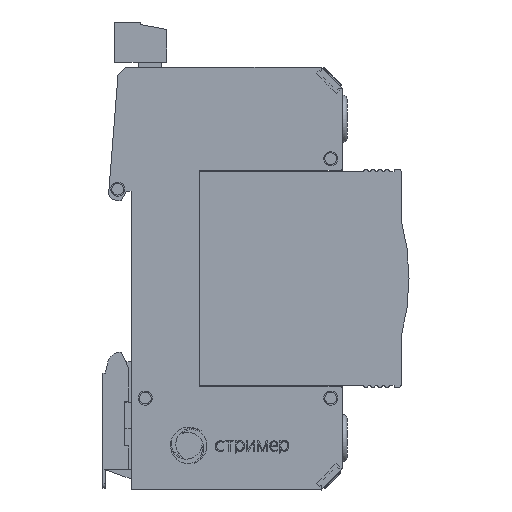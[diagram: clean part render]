
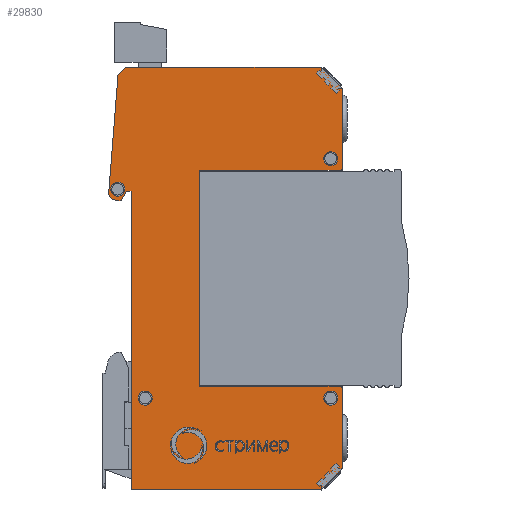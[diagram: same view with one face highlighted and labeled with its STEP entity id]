
A CAD part, front view. The second image highlights one B-rep face of the part: STEP entity #29830.
In plain terms, the highlighted planar face has unit normal (0, -1, 0).
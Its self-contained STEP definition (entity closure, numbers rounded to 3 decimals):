
#27758=CARTESIAN_POINT('',(30.,-9.,-23.));
#27759=VERTEX_POINT('',#27758);
#27797=CARTESIAN_POINT('',(0.,-9.,-23.));
#27798=VERTEX_POINT('',#27797);
#27805=CARTESIAN_POINT('',(30.,-9.,-23.));
#27806=DIRECTION('',(-1.,0.,0.));
#27807=VECTOR('',#27806,30.);
#27808=LINE('',#27805,#27807);
#27809=EDGE_CURVE('',#27759,#27798,#27808,.T.);
#27853=CARTESIAN_POINT('',(30.,-9.,23.));
#27854=VERTEX_POINT('',#27853);
#27861=CARTESIAN_POINT('',(0.,-9.,23.));
#27862=VERTEX_POINT('',#27861);
#27863=CARTESIAN_POINT('',(0.,-9.,23.));
#27864=DIRECTION('',(1.,0.,0.));
#27865=VECTOR('',#27864,30.);
#27866=LINE('',#27863,#27865);
#27867=EDGE_CURVE('',#27862,#27854,#27866,.T.);
#27992=CARTESIAN_POINT('',(-14.5,-9.,-45.));
#27993=VERTEX_POINT('',#27992);
#27994=CARTESIAN_POINT('',(26.,-9.,-45.));
#27995=VERTEX_POINT('',#27994);
#27996=CARTESIAN_POINT('',(-14.5,-9.,-45.));
#27997=DIRECTION('',(1.,0.,-0.));
#27998=VECTOR('',#27997,40.5);
#27999=LINE('',#27996,#27998);
#28000=EDGE_CURVE('',#27993,#27995,#27999,.T.);
#28662=CARTESIAN_POINT('',(-14.5,-9.,18.5));
#28663=VERTEX_POINT('',#28662);
#28664=CARTESIAN_POINT('',(-14.5,-9.,18.5));
#28665=DIRECTION('',(0.,0.,-1.));
#28666=VECTOR('',#28665,63.5);
#28667=LINE('',#28664,#28666);
#28668=EDGE_CURVE('',#28663,#27993,#28667,.T.);
#28863=CARTESIAN_POINT('',(-15.5,-9.,45.));
#28864=VERTEX_POINT('',#28863);
#28865=CARTESIAN_POINT('',(-17.29,-9.,43.498));
#28866=VERTEX_POINT('',#28865);
#28867=CARTESIAN_POINT('',(-15.5,-9.,45.));
#28868=DIRECTION('',(-0.766,0.,-0.643));
#28869=VECTOR('',#28868,2.337);
#28870=LINE('',#28867,#28869);
#28871=EDGE_CURVE('',#28864,#28866,#28870,.T.);
#28903=CARTESIAN_POINT('',(-19.273,-9.,18.306));
#28904=VERTEX_POINT('',#28903);
#28905=CARTESIAN_POINT('',(-17.29,-9.,43.498));
#28906=DIRECTION('',(-0.078,0.,-0.997));
#28907=VECTOR('',#28906,25.27);
#28908=LINE('',#28905,#28907);
#28909=EDGE_CURVE('',#28866,#28904,#28908,.T.);
#28934=CARTESIAN_POINT('',(-17.999,-9.,16.704));
#28935=VERTEX_POINT('',#28934);
#28936=CARTESIAN_POINT('',(-17.777,-9.,18.188));
#28937=DIRECTION('',(0.,-1.,0.));
#28938=DIRECTION('',(0.,0.,1.));
#28939=AXIS2_PLACEMENT_3D('',#28936,#28937,#28938);
#28940=CIRCLE('',#28939,1.5);
#28941=EDGE_CURVE('',#28904,#28935,#28940,.T.);
#28967=CARTESIAN_POINT('',(-16.632,-9.,16.5));
#28968=VERTEX_POINT('',#28967);
#28969=CARTESIAN_POINT('',(-17.999,-9.,16.704));
#28970=DIRECTION('',(0.989,0.,-0.148));
#28971=VECTOR('',#28970,1.383);
#28972=LINE('',#28969,#28971);
#28973=EDGE_CURVE('',#28935,#28968,#28972,.T.);
#28998=CARTESIAN_POINT('',(-15.5,-9.,18.5));
#28999=VERTEX_POINT('',#28998);
#29000=CARTESIAN_POINT('',(-16.632,-9.,16.5));
#29001=DIRECTION('',(0.492,0.,0.87));
#29002=VECTOR('',#29001,2.298);
#29003=LINE('',#29000,#29002);
#29004=EDGE_CURVE('',#28968,#28999,#29003,.T.);
#29029=CARTESIAN_POINT('',(-15.5,-9.,18.5));
#29030=DIRECTION('',(1.,0.,0.));
#29031=VECTOR('',#29030,1.);
#29032=LINE('',#29029,#29031);
#29033=EDGE_CURVE('',#28999,#28663,#29032,.T.);
#29051=CARTESIAN_POINT('',(30.5,-9.,-40.5));
#29052=VERTEX_POINT('',#29051);
#29053=CARTESIAN_POINT('',(26.,-9.,-45.));
#29054=DIRECTION('',(0.707,0.,0.707));
#29055=VECTOR('',#29054,6.364);
#29056=LINE('',#29053,#29055);
#29057=EDGE_CURVE('',#27995,#29052,#29056,.T.);
#29106=CARTESIAN_POINT('',(30.5,-9.,-23.5));
#29107=VERTEX_POINT('',#29106);
#29114=CARTESIAN_POINT('',(30.5,-9.,-40.5));
#29115=DIRECTION('',(0.,0.,1.));
#29116=VECTOR('',#29115,17.);
#29117=LINE('',#29114,#29116);
#29118=EDGE_CURVE('',#29052,#29107,#29117,.T.);
#29164=CARTESIAN_POINT('',(30.,-9.,-23.5));
#29165=DIRECTION('',(0.,-1.,0.));
#29166=DIRECTION('',(0.,0.,1.));
#29167=AXIS2_PLACEMENT_3D('',#29164,#29165,#29166);
#29168=CIRCLE('',#29167,0.5);
#29169=EDGE_CURVE('',#29107,#27759,#29168,.T.);
#29180=CARTESIAN_POINT('',(0.,-9.,-23.));
#29181=DIRECTION('',(0.,0.,1.));
#29182=VECTOR('',#29181,46.);
#29183=LINE('',#29180,#29182);
#29184=EDGE_CURVE('',#27798,#27862,#29183,.T.);
#29211=CARTESIAN_POINT('',(30.5,-9.,23.5));
#29212=VERTEX_POINT('',#29211);
#29219=CARTESIAN_POINT('',(30.,-9.,23.5));
#29220=DIRECTION('',(0.,-1.,0.));
#29221=DIRECTION('',(0.,0.,1.));
#29222=AXIS2_PLACEMENT_3D('',#29219,#29220,#29221);
#29223=CIRCLE('',#29222,0.5);
#29224=EDGE_CURVE('',#27854,#29212,#29223,.T.);
#29252=CARTESIAN_POINT('',(30.5,-9.,40.5));
#29253=VERTEX_POINT('',#29252);
#29260=CARTESIAN_POINT('',(30.5,-9.,23.5));
#29261=DIRECTION('',(0.,0.,1.));
#29262=VECTOR('',#29261,17.);
#29263=LINE('',#29260,#29262);
#29264=EDGE_CURVE('',#29212,#29253,#29263,.T.);
#29309=CARTESIAN_POINT('',(26.,-9.,45.));
#29310=VERTEX_POINT('',#29309);
#29311=CARTESIAN_POINT('',(30.5,-9.,40.5));
#29312=DIRECTION('',(-0.707,0.,0.707));
#29313=VECTOR('',#29312,6.364);
#29314=LINE('',#29311,#29313);
#29315=EDGE_CURVE('',#29253,#29310,#29314,.T.);
#29340=CARTESIAN_POINT('',(-17.38,-9.,17.5));
#29341=VERTEX_POINT('',#29340);
#29350=CARTESIAN_POINT('',(-18.88,-9.,19.));
#29351=VERTEX_POINT('',#29350);
#29352=CARTESIAN_POINT('',(-17.38,-9.,19.));
#29353=DIRECTION('',(0.,-1.,0.));
#29354=DIRECTION('',(-1.,0.,0.));
#29355=AXIS2_PLACEMENT_3D('',#29352,#29353,#29354);
#29356=CIRCLE('',#29355,1.5);
#29357=EDGE_CURVE('',#29341,#29351,#29356,.T.);
#29382=CARTESIAN_POINT('',(28.,-9.,24.));
#29383=VERTEX_POINT('',#29382);
#29392=CARTESIAN_POINT('',(26.5,-9.,25.5));
#29393=VERTEX_POINT('',#29392);
#29394=CARTESIAN_POINT('',(28.,-9.,25.5));
#29395=DIRECTION('',(0.,-1.,0.));
#29396=DIRECTION('',(-1.,0.,0.));
#29397=AXIS2_PLACEMENT_3D('',#29394,#29395,#29396);
#29398=CIRCLE('',#29397,1.5);
#29399=EDGE_CURVE('',#29383,#29393,#29398,.T.);
#29460=CARTESIAN_POINT('',(-11.5,-9.,-27.));
#29461=VERTEX_POINT('',#29460);
#29470=CARTESIAN_POINT('',(-13.,-9.,-25.5));
#29471=VERTEX_POINT('',#29470);
#29472=CARTESIAN_POINT('',(-11.5,-9.,-25.5));
#29473=DIRECTION('',(0.,-1.,0.));
#29474=DIRECTION('',(-1.,0.,0.));
#29475=AXIS2_PLACEMENT_3D('',#29472,#29473,#29474);
#29476=CIRCLE('',#29475,1.5);
#29477=EDGE_CURVE('',#29461,#29471,#29476,.T.);
#29502=CARTESIAN_POINT('',(28.,-9.,-27.));
#29503=VERTEX_POINT('',#29502);
#29512=CARTESIAN_POINT('',(26.5,-9.,-25.5));
#29513=VERTEX_POINT('',#29512);
#29514=CARTESIAN_POINT('',(28.,-9.,-25.5));
#29515=DIRECTION('',(0.,-1.,0.));
#29516=DIRECTION('',(-1.,0.,0.));
#29517=AXIS2_PLACEMENT_3D('',#29514,#29515,#29516);
#29518=CIRCLE('',#29517,1.5);
#29519=EDGE_CURVE('',#29503,#29513,#29518,.T.);
#29682=CARTESIAN_POINT('',(26.,-9.,45.));
#29683=DIRECTION('',(-1.,0.,0.));
#29684=VECTOR('',#29683,41.5);
#29685=LINE('',#29682,#29684);
#29686=EDGE_CURVE('',#29310,#28864,#29685,.T.);
#29765=CARTESIAN_POINT('',(0.,-9.,0.));
#29766=DIRECTION('',(0.,-1.,0.));
#29767=DIRECTION('',(0.,0.,1.));
#29768=AXIS2_PLACEMENT_3D('',#29765,#29766,#29767);
#29769=PLANE('',#29768);
#29770=ORIENTED_EDGE('',*,*,#29519,.F.);
#29771=CARTESIAN_POINT('',(28.,-9.,-25.5));
#29772=DIRECTION('',(0.,-1.,0.));
#29773=DIRECTION('',(-1.,0.,0.));
#29774=AXIS2_PLACEMENT_3D('',#29771,#29772,#29773);
#29775=CIRCLE('',#29774,1.5);
#29776=EDGE_CURVE('',#29513,#29503,#29775,.T.);
#29777=ORIENTED_EDGE('',*,*,#29776,.F.);
#29778=EDGE_LOOP('',(#29770,#29777));
#29779=FACE_BOUND('',#29778,.T.);
#29780=ORIENTED_EDGE('',*,*,#29477,.F.);
#29781=CARTESIAN_POINT('',(-11.5,-9.,-25.5));
#29782=DIRECTION('',(0.,-1.,0.));
#29783=DIRECTION('',(-1.,0.,0.));
#29784=AXIS2_PLACEMENT_3D('',#29781,#29782,#29783);
#29785=CIRCLE('',#29784,1.5);
#29786=EDGE_CURVE('',#29471,#29461,#29785,.T.);
#29787=ORIENTED_EDGE('',*,*,#29786,.F.);
#29788=EDGE_LOOP('',(#29780,#29787));
#29789=FACE_BOUND('',#29788,.T.);
#29790=ORIENTED_EDGE('',*,*,#29399,.F.);
#29791=CARTESIAN_POINT('',(28.,-9.,25.5));
#29792=DIRECTION('',(0.,-1.,0.));
#29793=DIRECTION('',(-1.,0.,0.));
#29794=AXIS2_PLACEMENT_3D('',#29791,#29792,#29793);
#29795=CIRCLE('',#29794,1.5);
#29796=EDGE_CURVE('',#29393,#29383,#29795,.T.);
#29797=ORIENTED_EDGE('',*,*,#29796,.F.);
#29798=EDGE_LOOP('',(#29790,#29797));
#29799=FACE_BOUND('',#29798,.T.);
#29800=ORIENTED_EDGE('',*,*,#29357,.F.);
#29801=CARTESIAN_POINT('',(-17.38,-9.,19.));
#29802=DIRECTION('',(0.,-1.,0.));
#29803=DIRECTION('',(-1.,0.,0.));
#29804=AXIS2_PLACEMENT_3D('',#29801,#29802,#29803);
#29805=CIRCLE('',#29804,1.5);
#29806=EDGE_CURVE('',#29351,#29341,#29805,.T.);
#29807=ORIENTED_EDGE('',*,*,#29806,.F.);
#29808=EDGE_LOOP('',(#29800,#29807));
#29809=FACE_BOUND('',#29808,.T.);
#29810=ORIENTED_EDGE('',*,*,#28871,.T.);
#29811=ORIENTED_EDGE('',*,*,#28909,.T.);
#29812=ORIENTED_EDGE('',*,*,#28941,.T.);
#29813=ORIENTED_EDGE('',*,*,#28973,.T.);
#29814=ORIENTED_EDGE('',*,*,#29004,.T.);
#29815=ORIENTED_EDGE('',*,*,#29033,.T.);
#29816=ORIENTED_EDGE('',*,*,#28668,.T.);
#29817=ORIENTED_EDGE('',*,*,#28000,.T.);
#29818=ORIENTED_EDGE('',*,*,#29057,.T.);
#29819=ORIENTED_EDGE('',*,*,#29118,.T.);
#29820=ORIENTED_EDGE('',*,*,#29169,.T.);
#29821=ORIENTED_EDGE('',*,*,#27809,.T.);
#29822=ORIENTED_EDGE('',*,*,#29184,.T.);
#29823=ORIENTED_EDGE('',*,*,#27867,.T.);
#29824=ORIENTED_EDGE('',*,*,#29224,.T.);
#29825=ORIENTED_EDGE('',*,*,#29264,.T.);
#29826=ORIENTED_EDGE('',*,*,#29315,.T.);
#29827=ORIENTED_EDGE('',*,*,#29686,.T.);
#29828=EDGE_LOOP('',(#29810,#29811,#29812,#29813,#29814,#29815,#29816,#29817,#29818,#29819,#29820,#29821,#29822,#29823,#29824,#29825,#29826,#29827));
#29829=FACE_BOUND('',#29828,.T.);
#29830=ADVANCED_FACE('',(#29779,#29789,#29799,#29809,#29829),#29769,.T.);
